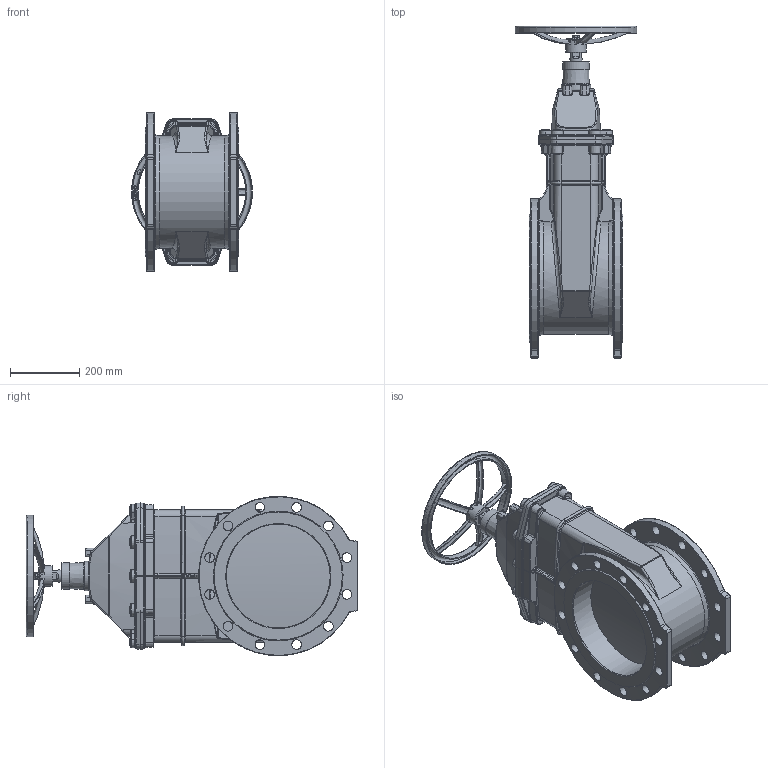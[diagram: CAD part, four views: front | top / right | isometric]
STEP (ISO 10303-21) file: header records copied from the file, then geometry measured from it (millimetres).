
FILE_DESCRIPTION (( 'STEP AP203' ), '1' );
FILE_NAME ('20.DN300.STEP', '2013-01-17T09:30:49', ( 'luca.saino' ), ( 'Hewlett-Packard Company' ), 'SwSTEP 2.0', 'SolidWorks 2012', '' );
FILE_SCHEMA (( 'CONFIG_CONTROL_DESIGN' ));
Length unit declared in the file: millimetre
Products named in the file (1): 20.DN300
Bounding box: 350 x 958 x 459.54 mm (x, y, z)
Volume: 37467762.5 mm3; surface area: 1715449.2 mm2
Topology: 1 solids, 35 shells, 1955 faces, 4573 edges, 2654 vertices
Faces by surface type: cylinder 544, plane 471, bspline 428, torus 296, cone 188, sphere 28
Full cylindrical faces by diameter (mm): 8.5 x11, 10 x12, 10.2 x14, 10.5 x1, 11 x1, 12 x10, 13 x10, 18 x10, 20 x1, 28 x24, 28.5 x10, 36 x2, 52 x1, 60 x1, 77 x1, 300 x2, 310 x1, 316 x1, 344 x1, 350 x1
Entity records: 78557 total; most frequent: CARTESIAN_POINT 38675, ORIENTED_EDGE 8340, DIRECTION 7890, EDGE_CURVE 4170, AXIS2_PLACEMENT_3D 3249, VERTEX_POINT 2558, EDGE_LOOP 2332, FACE_OUTER_BOUND 2127
